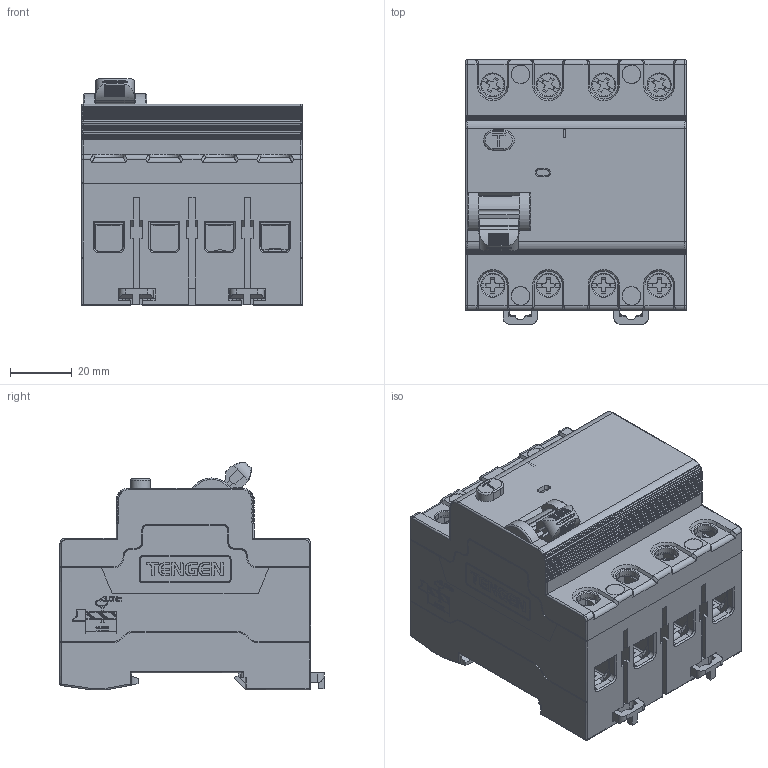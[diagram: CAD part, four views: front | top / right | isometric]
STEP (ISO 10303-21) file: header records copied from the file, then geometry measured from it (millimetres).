
FILE_DESCRIPTION (( 'STEP AP214' ), '1' );
FILE_NAME ('TGL1N-80 4P.STEP', '2025-12-12T11:57:03', ( '' ), ( '' ), 'SwSTEP 2.0', 'SolidWorks 2024', '' );
FILE_SCHEMA (( 'AUTOMOTIVE_DESIGN' ));
Length unit declared in the file: millimetre
Products named in the file (15): PRODUCT_280224_3.stp; PRODUCT_245076_3.stp; PRODUCT_179084_3.stp; PRODUCT_23789_3.stp; LUOD_3.stp; __2-47754_1.stp; __4P___RCCB0425_1.stp; __-__8-142926_1.stp; PRODUCT_55028_3.stp; __4P____RCCB0425_-_______ASM_1.stp; PRODUCT_196432_3.stp; PRODUCT_51821_ASM_3.stp; TGL1N-80 4P; ____-___3.stp; TGL1N-80 4P.stp
Assembly tree (38 placements, depth 5):
  TGL1N-80 4P
    TGL1N-80 4P.stp
      PRODUCT_51821_ASM_3.stp
        __4P____RCCB0425_-_______ASM_1.stp
          __2-47754_1.stp
          __-__8-142926_1.stp
        LUOD_3.stp  x8
        PRODUCT_179084_3.stp  x4
        PRODUCT_196432_3.stp  x8
        ____-___3.stp
        __4P___RCCB0425_1.stp
        PRODUCT_280224_3.stp  x2
        PRODUCT_245076_3.stp
      PRODUCT_23789_3.stp  x4
      PRODUCT_55028_3.stp  x4
Bounding box: 71.7 x 85.77 x 73.99 mm (x, y, z)
Volume: 83988.1 mm3; surface area: 113095.3 mm2
Topology: 35 solids, 35 shells, 5264 faces, 14030 edges, 8807 vertices
Faces by surface type: plane 3663, cylinder 1134, bspline 144, sphere 144, torus 106, cone 73
Entity records: 130798 total; most frequent: CARTESIAN_POINT 34372, ORIENTED_EDGE 20718, DIRECTION 18653, EDGE_CURVE 10359, LINE 8339, VECTOR 8339, VERTEX_POINT 6686, AXIS2_PLACEMENT_3D 5157
